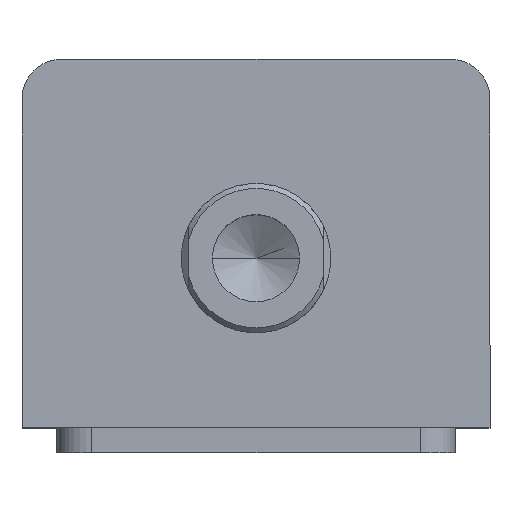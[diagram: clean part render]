
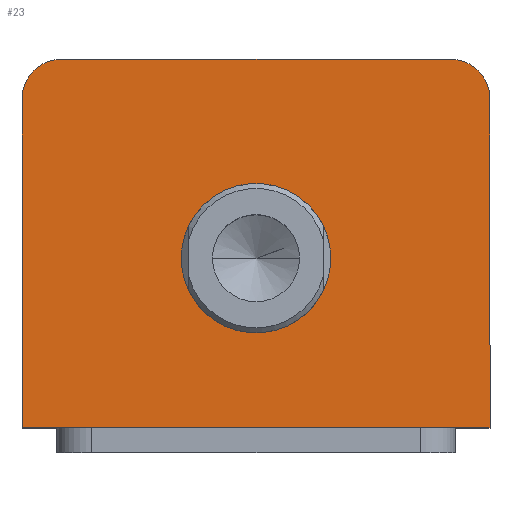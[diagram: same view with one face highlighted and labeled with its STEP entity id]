
A CAD part, top view. The second image highlights one B-rep face of the part: STEP entity #23.
In plain terms, the highlighted planar face has unit normal (0, 0, 1).
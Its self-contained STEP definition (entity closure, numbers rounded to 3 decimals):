
#23 = ADVANCED_FACE ( 'NONE', ( #1281, #1275 ), #494, .T. ) ;
#47 = CARTESIAN_POINT ( 'NONE',  ( -47., 29., 85. ) ) ;
#494 = PLANE ( 'NONE',  #2964 ) ;
#505 = CARTESIAN_POINT ( 'NONE',  ( 0., 0., 85. ) ) ;
#549 = DIRECTION ( 'NONE',  ( 0., 1., 0. ) ) ;
#551 = CARTESIAN_POINT ( 'NONE',  ( 47., 37., 85. ) ) ;
#580 = DIRECTION ( 'NONE',  ( -1., 0., 0. ) ) ;
#581 = CARTESIAN_POINT ( 'NONE',  ( -47., 37., 85. ) ) ;
#647 = DIRECTION ( 'NONE',  ( 1., 0., 0. ) ) ;
#648 = DIRECTION ( 'NONE',  ( 0., 0., 1. ) ) ;
#918 = EDGE_CURVE ( 'NONE', #1211, #1049, #2536, .T. ) ;
#927 = EDGE_CURVE ( 'NONE', #1058, #1050, #2521, .T. ) ;
#1048 = VERTEX_POINT ( 'NONE', #2615 ) ;
#1049 = VERTEX_POINT ( 'NONE', #2613 ) ;
#1050 = VERTEX_POINT ( 'NONE', #2611 ) ;
#1058 = VERTEX_POINT ( 'NONE', #2602 ) ;
#1211 = VERTEX_POINT ( 'NONE', #2580 ) ;
#1236 = VERTEX_POINT ( 'NONE', #2551 ) ;
#1237 = VERTEX_POINT ( 'NONE', #2140 ) ;
#1275 = FACE_OUTER_BOUND ( 'NONE', #2789, .T. ) ;
#1281 = FACE_BOUND ( 'NONE', #2785, .T. ) ;
#1318 = AXIS2_PLACEMENT_3D ( 'NONE', #2258, #2257, #2256 ) ;
#1372 = ORIENTED_EDGE ( 'NONE', *, *, #1653, .F. ) ;
#1375 = ORIENTED_EDGE ( 'NONE', *, *, #1700, .F. ) ;
#1376 = ORIENTED_EDGE ( 'NONE', *, *, #918, .T. ) ;
#1378 = ORIENTED_EDGE ( 'NONE', *, *, #1630, .T. ) ;
#1380 = ORIENTED_EDGE ( 'NONE', *, *, #1644, .T. ) ;
#1382 = ORIENTED_EDGE ( 'NONE', *, *, #1636, .T. ) ;
#1384 = ORIENTED_EDGE ( 'NONE', *, *, #927, .T. ) ;
#1386 = ORIENTED_EDGE ( 'NONE', *, *, #1620, .T. ) ;
#1620 = EDGE_CURVE ( 'NONE', #1050, #1211, #2433, .T. ) ;
#1630 = EDGE_CURVE ( 'NONE', #1049, #1760, #2423, .T. ) ;
#1636 = EDGE_CURVE ( 'NONE', #1048, #1058, #2415, .T. ) ;
#1644 = EDGE_CURVE ( 'NONE', #1760, #1048, #2399, .T. ) ;
#1653 = EDGE_CURVE ( 'NONE', #1236, #1237, #2382, .T. ) ;
#1700 = EDGE_CURVE ( 'NONE', #1237, #1236, #2182, .T. ) ;
#1760 = VERTEX_POINT ( 'NONE', #47 ) ;
#2039 = DIRECTION ( 'NONE',  ( 1., 0., 0. ) ) ;
#2040 = DIRECTION ( 'NONE',  ( 0., 0., 1. ) ) ;
#2041 = CARTESIAN_POINT ( 'NONE',  ( 0., -3., 85. ) ) ;
#2042 = DIRECTION ( 'NONE',  ( 1., 0., 0. ) ) ;
#2044 = DIRECTION ( 'NONE',  ( 0., 0., 1. ) ) ;
#2045 = CARTESIAN_POINT ( 'NONE',  ( 39., 29., 85. ) ) ;
#2067 = DIRECTION ( 'NONE',  ( 0., -1., 0. ) ) ;
#2068 = CARTESIAN_POINT ( 'NONE',  ( -47., 37., 85. ) ) ;
#2087 = DIRECTION ( 'NONE',  ( 1., 0., 0. ) ) ;
#2088 = CARTESIAN_POINT ( 'NONE',  ( -47., -37., 85. ) ) ;
#2113 = DIRECTION ( 'NONE',  ( 1., 0., 0. ) ) ;
#2115 = DIRECTION ( 'NONE',  ( 0., 0., 1. ) ) ;
#2116 = CARTESIAN_POINT ( 'NONE',  ( -39., 29., 85. ) ) ;
#2140 = CARTESIAN_POINT ( 'NONE',  ( -15., -3., 85. ) ) ;
#2182 = CIRCLE ( 'NONE', #1318, 15. ) ;
#2256 = DIRECTION ( 'NONE',  ( 1., 0., 0. ) ) ;
#2257 = DIRECTION ( 'NONE',  ( 0., 0., 1. ) ) ;
#2258 = CARTESIAN_POINT ( 'NONE',  ( 0., -3., 85. ) ) ;
#2382 = CIRCLE ( 'NONE', #3012, 15. ) ;
#2396 = VECTOR ( 'NONE', #2067, 1000. ) ;
#2399 = LINE ( 'NONE', #2068, #2396 ) ;
#2412 = VECTOR ( 'NONE', #2087, 1000. ) ;
#2415 = LINE ( 'NONE', #2088, #2412 ) ;
#2423 = CIRCLE ( 'NONE', #3007, 8. ) ;
#2433 = CIRCLE ( 'NONE', #2999, 8. ) ;
#2518 = VECTOR ( 'NONE', #549, 1000. ) ;
#2521 = LINE ( 'NONE', #551, #2518 ) ;
#2536 = LINE ( 'NONE', #581, #2537 ) ;
#2537 = VECTOR ( 'NONE', #580, 1000. ) ;
#2551 = CARTESIAN_POINT ( 'NONE',  ( 15., -3., 85. ) ) ;
#2580 = CARTESIAN_POINT ( 'NONE',  ( 39., 37., 85. ) ) ;
#2602 = CARTESIAN_POINT ( 'NONE',  ( 47., -37., 85. ) ) ;
#2611 = CARTESIAN_POINT ( 'NONE',  ( 47., 29., 85. ) ) ;
#2613 = CARTESIAN_POINT ( 'NONE',  ( -39., 37., 85. ) ) ;
#2615 = CARTESIAN_POINT ( 'NONE',  ( -47., -37., 85. ) ) ;
#2785 = EDGE_LOOP ( 'NONE', ( #1372, #1375 ) ) ;
#2789 = EDGE_LOOP ( 'NONE', ( #1376, #1378, #1380, #1382, #1384, #1386 ) ) ;
#2964 = AXIS2_PLACEMENT_3D ( 'NONE', #505, #648, #647 ) ;
#2999 = AXIS2_PLACEMENT_3D ( 'NONE', #2045, #2044, #2042 ) ;
#3007 = AXIS2_PLACEMENT_3D ( 'NONE', #2116, #2115, #2113 ) ;
#3012 = AXIS2_PLACEMENT_3D ( 'NONE', #2041, #2040, #2039 ) ;
